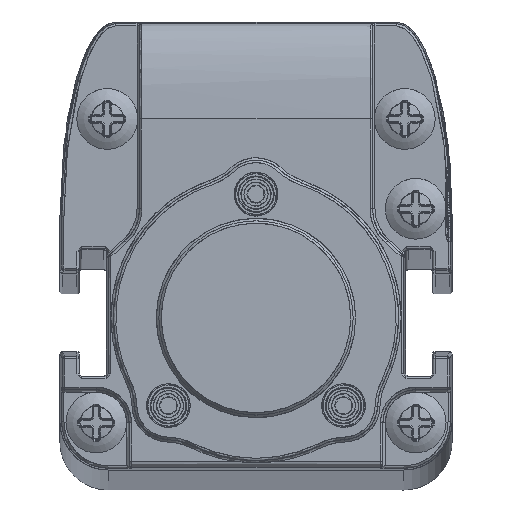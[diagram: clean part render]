
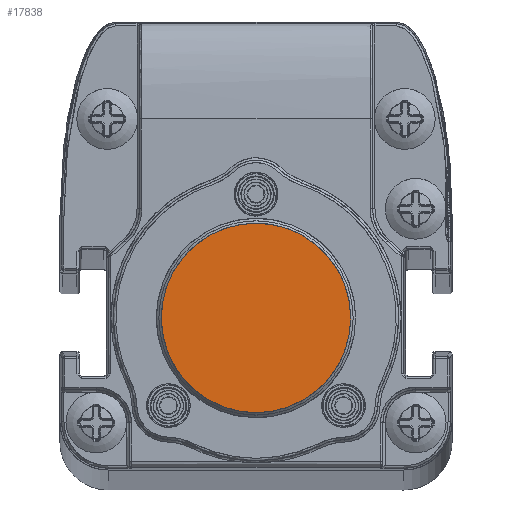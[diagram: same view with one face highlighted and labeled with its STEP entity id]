
A CAD part, top view. The second image highlights one B-rep face of the part: STEP entity #17838.
In plain terms, the highlighted planar face has unit normal (0, 0, 1).
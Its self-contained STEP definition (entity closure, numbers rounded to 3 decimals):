
#15104=B_SPLINE_CURVE_WITH_KNOTS('',3,(#62567,#62568,#62569,#62570,#62571,
#62572,#62573,#62574,#62575,#62576,#62577,#62578,#62579,#62580,#62581,#62582,
#62583,#62584,#62585,#62586,#62587,#62588,#62589,#62590,#62591,#62592,#62593,
#62594,#62595,#62596,#62597,#62598,#62599,#62600,#62601,#62602,#62603,#62604,
#62605,#62606,#62607,#62608,#62609,#62610,#62611,#62612,#62613,#62614,#62615,
#62616,#62617,#62618,#62619,#62620,#62621,#62622,#62623,#62624,#62625,#62626,
#62627,#62628,#62629,#62630,#62631,#62632,#62633,#62634,#62635,#62636,#62637,
#62638,#62639,#62640,#62641,#62642,#62643,#62644,#62645,#62646,#62647,#62648,
#62649,#62650,#62651,#62652,#62653,#62654,#62655,#62656,#62657,#62658,#62659,
#62660,#62661,#62662,#62663,#62664,#62665,#62666,#62667,#62668,#62669),
 .UNSPECIFIED.,.T.,.F.,(1,3,3,3,3,3,3,3,3,3,3,3,3,3,3,3,3,3,3,3,3,3,3,3,
3,3,3,3,3,3,3,3,3,3,3,3,1),(-0.029,0.,0.029,0.059,
0.088,0.118,0.147,0.176,
0.206,0.235,0.265,0.294,
0.324,0.353,0.382,0.412,
0.441,0.471,0.5,0.529,0.559,
0.588,0.618,0.647,0.676,
0.706,0.735,0.765,0.794,
0.824,0.853,0.882,0.912,
0.941,0.971,1.,1.029),.UNSPECIFIED.);
#17838=ADVANCED_FACE('',(#19817),#18734,.T.);
#18734=PLANE('',#43007);
#19817=FACE_OUTER_BOUND('',#21277,.T.);
#21277=EDGE_LOOP('',(#27512));
#27512=ORIENTED_EDGE('',*,*,#36403,.T.);
#31518=VERTEX_POINT('',#62670);
#36403=EDGE_CURVE('',#31518,#31518,#15104,.T.);
#43007=AXIS2_PLACEMENT_3D('',#62671,#46920,#46921);
#46920=DIRECTION('',(0.,0.,1.));
#46921=DIRECTION('',(1.,0.,0.));
#62567=CARTESIAN_POINT('',(7.8,0.,983.24));
#62568=CARTESIAN_POINT('',(7.8,0.465,983.24));
#62569=CARTESIAN_POINT('',(7.759,0.925,983.24));
#62570=CARTESIAN_POINT('',(7.679,1.376,983.24));
#62571=CARTESIAN_POINT('',(7.638,1.601,983.24));
#62572=CARTESIAN_POINT('',(7.588,1.825,983.24));
#62573=CARTESIAN_POINT('',(7.527,2.047,983.24));
#62574=CARTESIAN_POINT('',(7.466,2.269,983.24));
#62575=CARTESIAN_POINT('',(7.407,2.458,983.24));
#62576=CARTESIAN_POINT('',(7.315,2.708,983.24));
#62577=CARTESIAN_POINT('',(7.129,3.209,983.24));
#62578=CARTESIAN_POINT('',(6.898,3.683,983.24));
#62579=CARTESIAN_POINT('',(6.62,4.128,983.24));
#62580=CARTESIAN_POINT('',(6.343,4.573,983.24));
#62581=CARTESIAN_POINT('',(6.043,4.965,983.24));
#62582=CARTESIAN_POINT('',(5.651,5.376,983.24));
#62583=CARTESIAN_POINT('',(4.868,6.2,983.24));
#62584=CARTESIAN_POINT('',(3.912,6.837,983.24));
#62585=CARTESIAN_POINT('',(2.89,7.245,983.24));
#62586=CARTESIAN_POINT('',(2.378,7.449,983.24));
#62587=CARTESIAN_POINT('',(1.856,7.597,983.24));
#62588=CARTESIAN_POINT('',(1.324,7.689,983.24));
#62589=CARTESIAN_POINT('',(1.058,7.734,983.24));
#62590=CARTESIAN_POINT('',(0.79,7.766,983.24));
#62591=CARTESIAN_POINT('',(0.52,7.784,983.24));
#62592=CARTESIAN_POINT('',(0.249,7.801,983.24));
#62593=CARTESIAN_POINT('',(-0.055,7.804,983.24));
#62594=CARTESIAN_POINT('',(-0.3,7.794,983.24));
#62595=CARTESIAN_POINT('',(-0.79,7.775,983.24));
#62596=CARTESIAN_POINT('',(-1.271,7.712,983.24));
#62597=CARTESIAN_POINT('',(-1.742,7.604,983.24));
#62598=CARTESIAN_POINT('',(-2.213,7.496,983.24));
#62599=CARTESIAN_POINT('',(-2.713,7.327,983.24));
#62600=CARTESIAN_POINT('',(-3.123,7.147,983.24));
#62601=CARTESIAN_POINT('',(-3.534,6.968,983.24));
#62602=CARTESIAN_POINT('',(-3.924,6.757,983.24));
#62603=CARTESIAN_POINT('',(-4.293,6.513,983.24));
#62604=CARTESIAN_POINT('',(-4.477,6.392,983.24));
#62605=CARTESIAN_POINT('',(-4.656,6.262,983.24));
#62606=CARTESIAN_POINT('',(-4.83,6.125,983.24));
#62607=CARTESIAN_POINT('',(-5.004,5.987,983.24));
#62608=CARTESIAN_POINT('',(-5.15,5.864,983.24));
#62609=CARTESIAN_POINT('',(-5.337,5.688,983.24));
#62610=CARTESIAN_POINT('',(-5.712,5.337,983.24));
#62611=CARTESIAN_POINT('',(-6.047,4.956,983.24));
#62612=CARTESIAN_POINT('',(-6.341,4.545,983.24));
#62613=CARTESIAN_POINT('',(-6.635,4.134,983.24));
#62614=CARTESIAN_POINT('',(-6.869,3.738,983.24));
#62615=CARTESIAN_POINT('',(-7.102,3.226,983.24));
#62616=CARTESIAN_POINT('',(-7.567,2.203,983.24));
#62617=CARTESIAN_POINT('',(-7.8,1.124,983.24));
#62618=CARTESIAN_POINT('',(-7.8,0.,983.24));
#62619=CARTESIAN_POINT('',(-7.8,-0.562,983.24));
#62620=CARTESIAN_POINT('',(-7.742,-1.113,983.24));
#62621=CARTESIAN_POINT('',(-7.625,-1.651,983.24));
#62622=CARTESIAN_POINT('',(-7.509,-2.189,983.24));
#62623=CARTESIAN_POINT('',(-7.314,-2.758,983.24));
#62624=CARTESIAN_POINT('',(-7.102,-3.226,983.24));
#62625=CARTESIAN_POINT('',(-6.889,-3.694,983.24));
#62626=CARTESIAN_POINT('',(-6.636,-4.134,983.24));
#62627=CARTESIAN_POINT('',(-6.341,-4.544,983.24));
#62628=CARTESIAN_POINT('',(-6.194,-4.75,983.24));
#62629=CARTESIAN_POINT('',(-6.037,-4.947,983.24));
#62630=CARTESIAN_POINT('',(-5.87,-5.138,983.24));
#62631=CARTESIAN_POINT('',(-5.702,-5.329,983.24));
#62632=CARTESIAN_POINT('',(-5.5,-5.535,983.24));
#62633=CARTESIAN_POINT('',(-5.337,-5.688,983.24));
#62634=CARTESIAN_POINT('',(-5.01,-5.995,983.24));
#62635=CARTESIAN_POINT('',(-4.662,-6.27,983.24));
#62636=CARTESIAN_POINT('',(-4.293,-6.513,983.24));
#62637=CARTESIAN_POINT('',(-3.924,-6.756,983.24));
#62638=CARTESIAN_POINT('',(-3.573,-6.951,983.24));
#62639=CARTESIAN_POINT('',(-3.123,-7.147,983.24));
#62640=CARTESIAN_POINT('',(-2.674,-7.344,983.24));
#62641=CARTESIAN_POINT('',(-2.213,-7.496,983.24));
#62642=CARTESIAN_POINT('',(-1.743,-7.604,983.24));
#62643=CARTESIAN_POINT('',(-1.507,-7.658,983.24));
#62644=CARTESIAN_POINT('',(-1.269,-7.701,983.24));
#62645=CARTESIAN_POINT('',(-1.029,-7.732,983.24));
#62646=CARTESIAN_POINT('',(-0.789,-7.764,983.24));
#62647=CARTESIAN_POINT('',(-0.575,-7.784,983.24));
#62648=CARTESIAN_POINT('',(-0.3,-7.794,983.24));
#62649=CARTESIAN_POINT('',(0.801,-7.837,983.24));
#62650=CARTESIAN_POINT('',(1.834,-7.666,983.24));
#62651=CARTESIAN_POINT('',(2.89,-7.245,983.24));
#62652=CARTESIAN_POINT('',(3.417,-7.035,983.24));
#62653=CARTESIAN_POINT('',(3.912,-6.774,983.24));
#62654=CARTESIAN_POINT('',(4.372,-6.462,983.24));
#62655=CARTESIAN_POINT('',(4.833,-6.15,983.24));
#62656=CARTESIAN_POINT('',(5.283,-5.763,983.24));
#62657=CARTESIAN_POINT('',(5.651,-5.376,983.24));
#62658=CARTESIAN_POINT('',(6.019,-4.989,983.24));
#62659=CARTESIAN_POINT('',(6.342,-4.573,983.24));
#62660=CARTESIAN_POINT('',(6.62,-4.128,983.24));
#62661=CARTESIAN_POINT('',(6.759,-3.906,983.24));
#62662=CARTESIAN_POINT('',(6.886,-3.676,983.24));
#62663=CARTESIAN_POINT('',(7.002,-3.44,983.24));
#62664=CARTESIAN_POINT('',(7.117,-3.203,983.24));
#62665=CARTESIAN_POINT('',(7.234,-2.926,983.24));
#62666=CARTESIAN_POINT('',(7.315,-2.708,983.24));
#62667=CARTESIAN_POINT('',(7.638,-1.835,983.24));
#62668=CARTESIAN_POINT('',(7.8,-0.933,983.24));
#62669=CARTESIAN_POINT('',(7.8,0.,983.24));
#62670=CARTESIAN_POINT('',(7.8,0.,983.24));
#62671=CARTESIAN_POINT('',(-8.9,-8.81,983.24));
